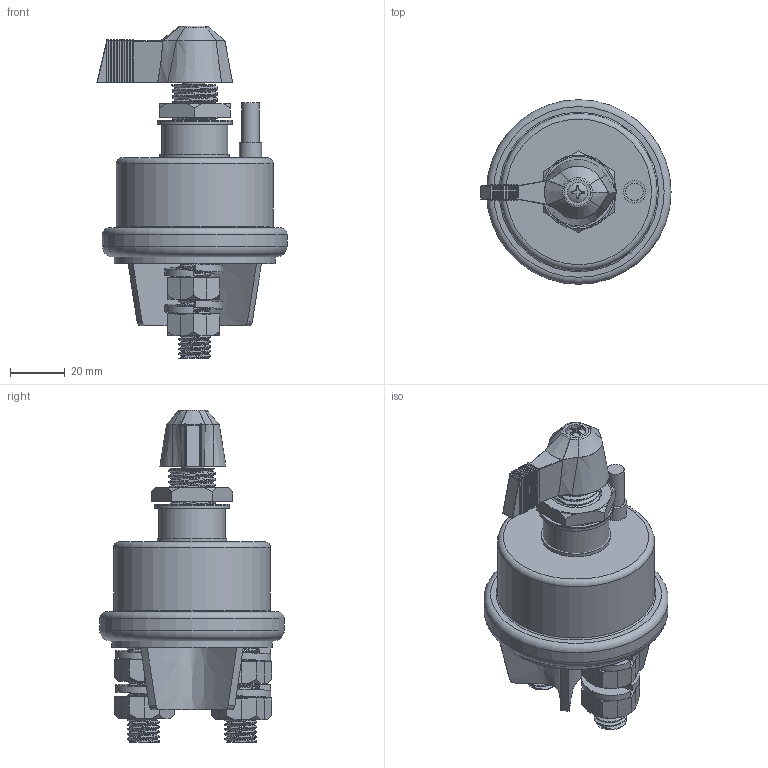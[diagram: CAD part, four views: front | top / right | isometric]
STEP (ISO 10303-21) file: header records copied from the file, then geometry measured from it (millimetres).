
FILE_DESCRIPTION(/* description */ (''),/* implementation_level */ '2;1');
FILE_NAME(/* name */ 'HDB2-1A-3-A1 v3.step',/* time_stamp */ '2023-07-31T11:12:05-07:00',/* author */ (''),/* organization */ (''),/* preprocessor_version */ 'ST-DEVELOPER v19.2',/* originating_system */ 'Autodesk Translation Framework v12.6.0.85',/* authorisation */ '');
FILE_SCHEMA (('AUTOMOTIVE_DESIGN { 1 0 10303 214 3 1 1 }'));
Products named in the file (10): HDB2-1A-3-A1; 5288T126_Oil-Resistant Buna-N Backup Rings; 98430A152_Push-on External Retaining Rings; Updated Cut cylinder; HDB2-1A-3-A1 Bottom; 18-8 Stainless Steel Split Lock Washer HDB2-1A-3-A1; Bottom Screw for HDB2-1A-3-A1; Upper screw for HDB2-1A-3-A1; 90116A207_316 Stainless Steel Pan Head Phillips Screws; lever[4960] v1 v1[4993]
Assembly tree (15 placements, depth 3):
  HDB2-1A-3-A1
    5288T126_Oil-Resistant Buna-N Backup Rings
    98430A152_Push-on External Retaining Rings
    Updated Cut cylinder
    HDB2-1A-3-A1 Bottom
      18-8 Stainless Steel Split Lock Washer HDB2-1A-3-A1  x4
      Bottom Screw for HDB2-1A-3-A1  x4
    Upper screw for HDB2-1A-3-A1
    90116A207_316 Stainless Steel Pan Head Phillips Screws
    lever[4960] v1 v1[4993]
Bounding box: 69.32 x 67.31 x 121.02 mm (x, y, z)
Volume: 153340 mm3; surface area: 49793.1 mm2
Topology: 37 solids, 37 shells, 884 faces, 2203 edges, 1387 vertices
Faces by surface type: plane 405, cylinder 347, bspline 80, sphere 22, cone 18, torus 12
Full cylindrical faces by diameter (mm): 3.091 x13, 3.332 x1, 3.81 x1, 4 x13, 6.35 x1, 7.366 x1, 7.62 x1, 8 x2, 8.128 x1, 9.836 x36, 10.274 x4, 11.834 x38, 14.943 x6, 15.526 x1, 18.6 x1, 19 x4, 22.682 x1, 24.13 x1, 24.206 x1, 25.375 x1, 25.8 x1, 27.33 x2, 57.15 x1, 58.596 x1, 67.31 x1
Entity records: 38556 total; most frequent: CARTESIAN_POINT 22233, ORIENTED_EDGE 3618, DIRECTION 2916, EDGE_CURVE 1809, VERTEX_POINT 1141, AXIS2_PLACEMENT_3D 1068, LINE 780, VECTOR 780
